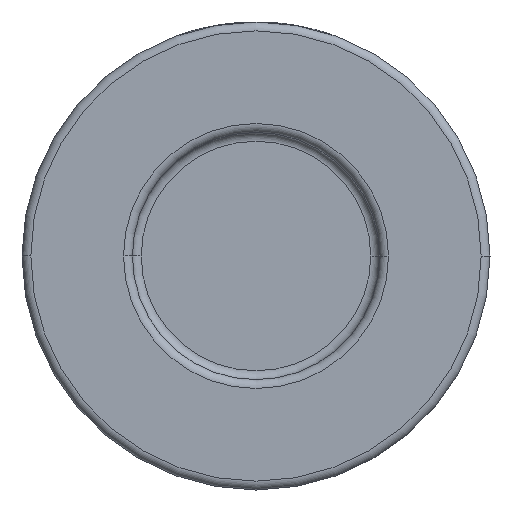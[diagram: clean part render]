
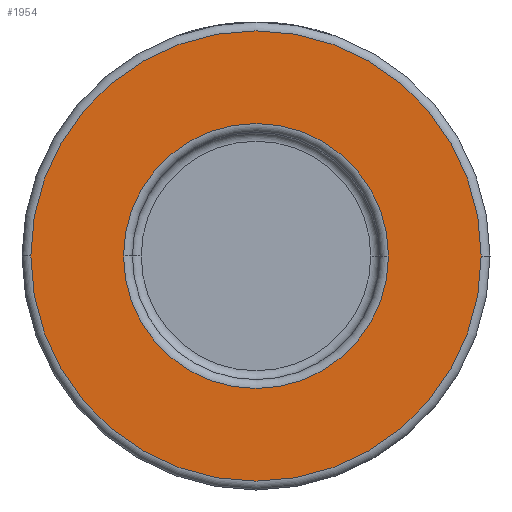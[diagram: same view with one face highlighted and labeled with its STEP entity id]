
A CAD part, front view. The second image highlights one B-rep face of the part: STEP entity #1954.
In plain terms, the highlighted planar face has unit normal (0, -1, 0).
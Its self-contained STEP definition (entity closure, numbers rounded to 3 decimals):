
#7 = ORIENTED_EDGE ( 'NONE', *, *, #1616, .T. ) ;
#15 = EDGE_CURVE ( 'NONE', #2472, #2783, #2893, .T. ) ;
#96 = AXIS2_PLACEMENT_3D ( 'NONE', #947, #3176, #604 ) ;
#125 = VERTEX_POINT ( 'NONE', #4124 ) ;
#399 = CIRCLE ( 'NONE', #96, 15. ) ;
#428 = EDGE_LOOP ( 'NONE', ( #7, #2113 ) ) ;
#518 = CARTESIAN_POINT ( 'NONE',  ( -25.5, -16., 0. ) ) ;
#519 = CIRCLE ( 'NONE', #3151, 15. ) ;
#552 = CARTESIAN_POINT ( 'NONE',  ( 0., -16., 0. ) ) ;
#559 = VERTEX_POINT ( 'NONE', #3463 ) ;
#604 = DIRECTION ( 'NONE',  ( 1., 0., 0. ) ) ;
#618 = CIRCLE ( 'NONE', #1188, 25.5 ) ;
#947 = CARTESIAN_POINT ( 'NONE',  ( 0., -16., 0. ) ) ;
#1131 = CARTESIAN_POINT ( 'NONE',  ( 26.5, -16., 0. ) ) ;
#1188 = AXIS2_PLACEMENT_3D ( 'NONE', #3203, #2840, #3675 ) ;
#1294 = CARTESIAN_POINT ( 'NONE',  ( 25.5, -16., 0. ) ) ;
#1327 = AXIS2_PLACEMENT_3D ( 'NONE', #552, #1885, #1520 ) ;
#1473 = FACE_OUTER_BOUND ( 'NONE', #1853, .T. ) ;
#1520 = DIRECTION ( 'NONE',  ( 1., 0., 0. ) ) ;
#1590 = EDGE_CURVE ( 'NONE', #2783, #2472, #618, .T. ) ;
#1616 = EDGE_CURVE ( 'NONE', #125, #559, #399, .T. ) ;
#1853 = EDGE_LOOP ( 'NONE', ( #3525, #1904 ) ) ;
#1885 = DIRECTION ( 'NONE',  ( 0., -1., 0. ) ) ;
#1904 = ORIENTED_EDGE ( 'NONE', *, *, #15, .T. ) ;
#1954 = ADVANCED_FACE ( 'NONE', ( #3167, #1473 ), #4203, .T. ) ;
#1998 = DIRECTION ( 'NONE',  ( 0., 1., 0. ) ) ;
#2113 = ORIENTED_EDGE ( 'NONE', *, *, #4283, .T. ) ;
#2472 = VERTEX_POINT ( 'NONE', #518 ) ;
#2506 = DIRECTION ( 'NONE',  ( 0., -1., 0. ) ) ;
#2562 = AXIS2_PLACEMENT_3D ( 'NONE', #1131, #2506, #3868 ) ;
#2783 = VERTEX_POINT ( 'NONE', #1294 ) ;
#2840 = DIRECTION ( 'NONE',  ( 0., -1., 0. ) ) ;
#2893 = CIRCLE ( 'NONE', #1327, 25.5 ) ;
#3151 = AXIS2_PLACEMENT_3D ( 'NONE', #3710, #1998, #3354 ) ;
#3167 = FACE_BOUND ( 'NONE', #428, .T. ) ;
#3176 = DIRECTION ( 'NONE',  ( 0., 1., 0. ) ) ;
#3203 = CARTESIAN_POINT ( 'NONE',  ( 0., -16., 0. ) ) ;
#3354 = DIRECTION ( 'NONE',  ( 1., 0., 0. ) ) ;
#3463 = CARTESIAN_POINT ( 'NONE',  ( -15., -16., 0. ) ) ;
#3525 = ORIENTED_EDGE ( 'NONE', *, *, #1590, .T. ) ;
#3675 = DIRECTION ( 'NONE',  ( 1., 0., 0. ) ) ;
#3710 = CARTESIAN_POINT ( 'NONE',  ( 0., -16., 0. ) ) ;
#3868 = DIRECTION ( 'NONE',  ( 1., 0., 0. ) ) ;
#4124 = CARTESIAN_POINT ( 'NONE',  ( 15., -16., 0. ) ) ;
#4203 = PLANE ( 'NONE',  #2562 ) ;
#4283 = EDGE_CURVE ( 'NONE', #559, #125, #519, .T. ) ;
